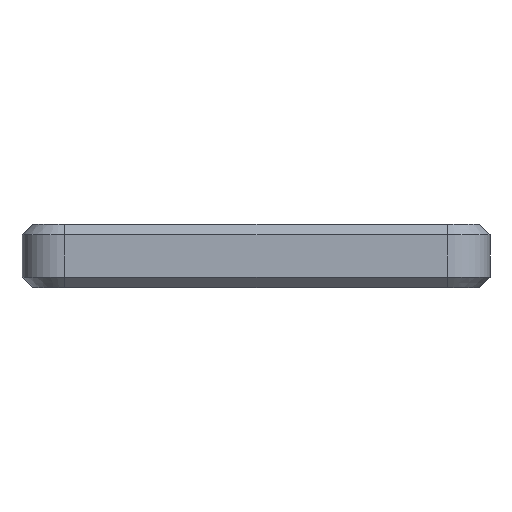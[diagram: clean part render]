
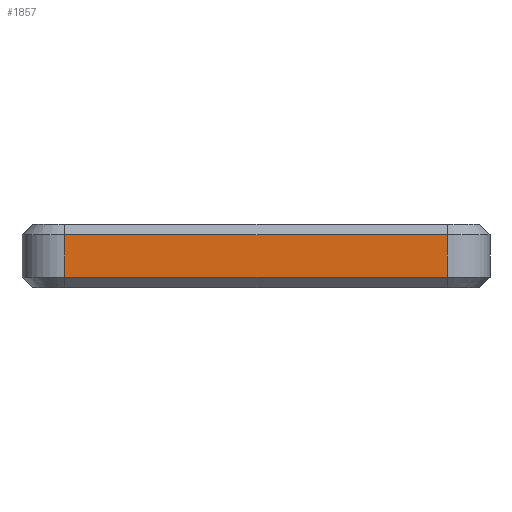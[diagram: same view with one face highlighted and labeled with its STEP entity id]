
A CAD part, left-side view. The second image highlights one B-rep face of the part: STEP entity #1857.
In plain terms, the highlighted planar face has unit normal (-1, 0, 0).
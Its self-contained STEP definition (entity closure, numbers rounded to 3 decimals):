
#158 = PLANE('',#159);
#159 = AXIS2_PLACEMENT_3D('',#160,#161,#162);
#160 = CARTESIAN_POINT('',(0.5,40.,5.5));
#161 = DIRECTION('',(0.707,0.,-0.707));
#162 = DIRECTION('',(0.,1.,0.));
#823 = VERTEX_POINT('',#824);
#824 = CARTESIAN_POINT('',(0.,4.,5.));
#860 = CYLINDRICAL_SURFACE('',#861,4.);
#861 = AXIS2_PLACEMENT_3D('',#862,#863,#864);
#862 = CARTESIAN_POINT('',(4.,4.,0.));
#863 = DIRECTION('',(-0.,-0.,-1.));
#864 = DIRECTION('',(1.,0.,0.));
#879 = VERTEX_POINT('',#880);
#880 = CARTESIAN_POINT('',(0.,40.,5.));
#895 = CYLINDRICAL_SURFACE('',#896,4.);
#896 = AXIS2_PLACEMENT_3D('',#897,#898,#899);
#897 = CARTESIAN_POINT('',(4.,40.,0.));
#898 = DIRECTION('',(-0.,-0.,-1.));
#899 = DIRECTION('',(1.,0.,0.));
#933 = EDGE_CURVE('',#879,#823,#934,.T.);
#934 = SURFACE_CURVE('',#935,(#939,#946),.PCURVE_S1.);
#935 = LINE('',#936,#937);
#936 = CARTESIAN_POINT('',(0.,40.,5.));
#937 = VECTOR('',#938,1.);
#938 = DIRECTION('',(0.,-1.,0.));
#939 = PCURVE('',#158,#940);
#940 = DEFINITIONAL_REPRESENTATION('',(#941),#945);
#941 = LINE('',#942,#943);
#942 = CARTESIAN_POINT('',(-0.,-0.707));
#943 = VECTOR('',#944,1.);
#944 = DIRECTION('',(-1.,0.));
#945 = ( GEOMETRIC_REPRESENTATION_CONTEXT(2) 
PARAMETRIC_REPRESENTATION_CONTEXT() REPRESENTATION_CONTEXT('2D SPACE',''
  ) );
#946 = PCURVE('',#947,#952);
#947 = PLANE('',#948);
#948 = AXIS2_PLACEMENT_3D('',#949,#950,#951);
#949 = CARTESIAN_POINT('',(0.,40.,0.));
#950 = DIRECTION('',(1.,0.,0.));
#951 = DIRECTION('',(0.,-1.,0.));
#952 = DEFINITIONAL_REPRESENTATION('',(#953),#957);
#953 = LINE('',#954,#955);
#954 = CARTESIAN_POINT('',(0.,-5.));
#955 = VECTOR('',#956,1.);
#956 = DIRECTION('',(1.,0.));
#957 = ( GEOMETRIC_REPRESENTATION_CONTEXT(2) 
PARAMETRIC_REPRESENTATION_CONTEXT() REPRESENTATION_CONTEXT('2D SPACE',''
  ) );
#1751 = EDGE_CURVE('',#1752,#823,#1754,.T.);
#1752 = VERTEX_POINT('',#1753);
#1753 = CARTESIAN_POINT('',(0.,4.,1.));
#1754 = SURFACE_CURVE('',#1755,(#1759,#1766),.PCURVE_S1.);
#1755 = LINE('',#1756,#1757);
#1756 = CARTESIAN_POINT('',(0.,4.,0.));
#1757 = VECTOR('',#1758,1.);
#1758 = DIRECTION('',(0.,0.,1.));
#1759 = PCURVE('',#860,#1760);
#1760 = DEFINITIONAL_REPRESENTATION('',(#1761),#1765);
#1761 = LINE('',#1762,#1763);
#1762 = CARTESIAN_POINT('',(-3.142,0.));
#1763 = VECTOR('',#1764,1.);
#1764 = DIRECTION('',(-0.,-1.));
#1765 = ( GEOMETRIC_REPRESENTATION_CONTEXT(2) 
PARAMETRIC_REPRESENTATION_CONTEXT() REPRESENTATION_CONTEXT('2D SPACE',''
  ) );
#1766 = PCURVE('',#947,#1767);
#1767 = DEFINITIONAL_REPRESENTATION('',(#1768),#1772);
#1768 = LINE('',#1769,#1770);
#1769 = CARTESIAN_POINT('',(36.,0.));
#1770 = VECTOR('',#1771,1.);
#1771 = DIRECTION('',(0.,-1.));
#1772 = ( GEOMETRIC_REPRESENTATION_CONTEXT(2) 
PARAMETRIC_REPRESENTATION_CONTEXT() REPRESENTATION_CONTEXT('2D SPACE',''
  ) );
#1808 = EDGE_CURVE('',#1809,#879,#1811,.T.);
#1809 = VERTEX_POINT('',#1810);
#1810 = CARTESIAN_POINT('',(0.,40.,1.));
#1811 = SURFACE_CURVE('',#1812,(#1816,#1823),.PCURVE_S1.);
#1812 = LINE('',#1813,#1814);
#1813 = CARTESIAN_POINT('',(0.,40.,0.));
#1814 = VECTOR('',#1815,1.);
#1815 = DIRECTION('',(0.,0.,1.));
#1816 = PCURVE('',#895,#1817);
#1817 = DEFINITIONAL_REPRESENTATION('',(#1818),#1822);
#1818 = LINE('',#1819,#1820);
#1819 = CARTESIAN_POINT('',(-3.142,0.));
#1820 = VECTOR('',#1821,1.);
#1821 = DIRECTION('',(-0.,-1.));
#1822 = ( GEOMETRIC_REPRESENTATION_CONTEXT(2) 
PARAMETRIC_REPRESENTATION_CONTEXT() REPRESENTATION_CONTEXT('2D SPACE',''
  ) );
#1823 = PCURVE('',#947,#1824);
#1824 = DEFINITIONAL_REPRESENTATION('',(#1825),#1829);
#1825 = LINE('',#1826,#1827);
#1826 = CARTESIAN_POINT('',(0.,0.));
#1827 = VECTOR('',#1828,1.);
#1828 = DIRECTION('',(0.,-1.));
#1829 = ( GEOMETRIC_REPRESENTATION_CONTEXT(2) 
PARAMETRIC_REPRESENTATION_CONTEXT() REPRESENTATION_CONTEXT('2D SPACE',''
  ) );
#1857 = ADVANCED_FACE('',(#1858),#947,.F.);
#1858 = FACE_BOUND('',#1859,.F.);
#1859 = EDGE_LOOP('',(#1860,#1861,#1862,#1863));
#1860 = ORIENTED_EDGE('',*,*,#1808,.T.);
#1861 = ORIENTED_EDGE('',*,*,#933,.T.);
#1862 = ORIENTED_EDGE('',*,*,#1751,.F.);
#1863 = ORIENTED_EDGE('',*,*,#1864,.F.);
#1864 = EDGE_CURVE('',#1809,#1752,#1865,.T.);
#1865 = SURFACE_CURVE('',#1866,(#1870,#1877),.PCURVE_S1.);
#1866 = LINE('',#1867,#1868);
#1867 = CARTESIAN_POINT('',(0.,40.,1.));
#1868 = VECTOR('',#1869,1.);
#1869 = DIRECTION('',(0.,-1.,0.));
#1870 = PCURVE('',#947,#1871);
#1871 = DEFINITIONAL_REPRESENTATION('',(#1872),#1876);
#1872 = LINE('',#1873,#1874);
#1873 = CARTESIAN_POINT('',(0.,-1.));
#1874 = VECTOR('',#1875,1.);
#1875 = DIRECTION('',(1.,0.));
#1876 = ( GEOMETRIC_REPRESENTATION_CONTEXT(2) 
PARAMETRIC_REPRESENTATION_CONTEXT() REPRESENTATION_CONTEXT('2D SPACE',''
  ) );
#1877 = PCURVE('',#1878,#1883);
#1878 = PLANE('',#1879);
#1879 = AXIS2_PLACEMENT_3D('',#1880,#1881,#1882);
#1880 = CARTESIAN_POINT('',(0.5,40.,0.5));
#1881 = DIRECTION('',(-0.707,0.,-0.707));
#1882 = DIRECTION('',(0.,1.,0.));
#1883 = DEFINITIONAL_REPRESENTATION('',(#1884),#1888);
#1884 = LINE('',#1885,#1886);
#1885 = CARTESIAN_POINT('',(-0.,-0.707));
#1886 = VECTOR('',#1887,1.);
#1887 = DIRECTION('',(-1.,0.));
#1888 = ( GEOMETRIC_REPRESENTATION_CONTEXT(2) 
PARAMETRIC_REPRESENTATION_CONTEXT() REPRESENTATION_CONTEXT('2D SPACE',''
  ) );
